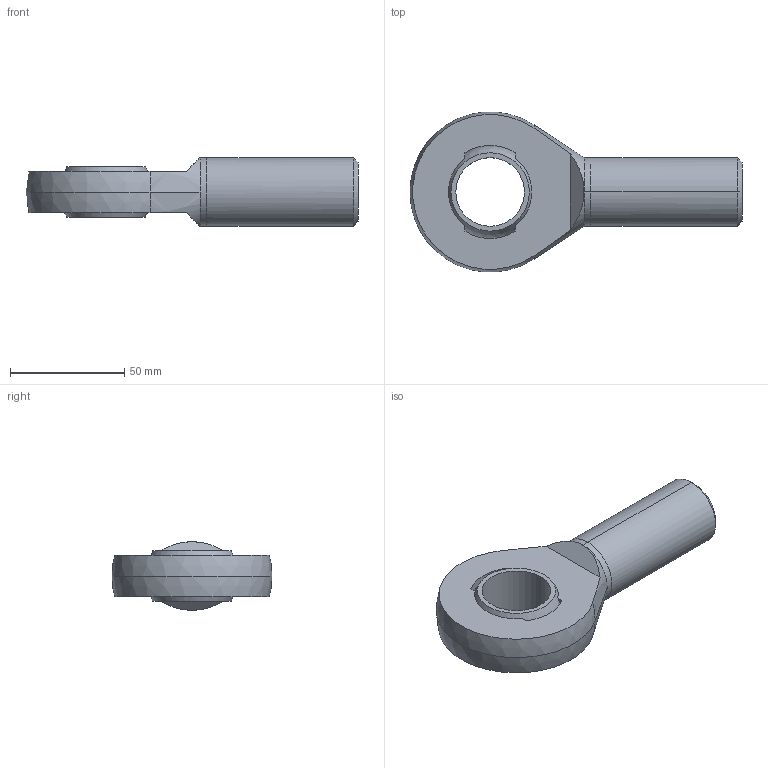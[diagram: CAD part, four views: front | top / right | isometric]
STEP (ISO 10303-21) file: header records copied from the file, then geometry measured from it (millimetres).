
FILE_DESCRIPTION (( 'STEP AP203' ), '1' );
FILE_NAME ('65860.W0530.step', '2014-02-06T11:41:31', ( 'User' ), ( '' ), 'SwSTEP 2.0', 'SolidWorks 2009', '' );
FILE_SCHEMA (( 'CONFIG_CONTROL_DESIGN' ));
Length unit declared in the file: millimetre
Products named in the file (3): Part1_65860.W0530; Part2_65860.W0530; 65860.W0530
Assembly tree (2 placements, depth 2):
  65860.W0530
    Part1_65860.W0530
    Part2_65860.W0530
Bounding box: 145 x 69.76 x 30 mm (x, y, z)
Volume: 110615.3 mm3; surface area: 24099 mm2
Topology: 2 solids, 2 shells, 35 faces, 82 edges, 51 vertices
Faces by surface type: plane 15, sphere 8, cylinder 8, cone 4
Entity records: 1357 total; most frequent: CARTESIAN_POINT 231, DIRECTION 196, ORIENTED_EDGE 160, AXIS2_PLACEMENT_3D 84, EDGE_CURVE 80, VERTEX_POINT 51, CIRCLE 44, EDGE_LOOP 41
